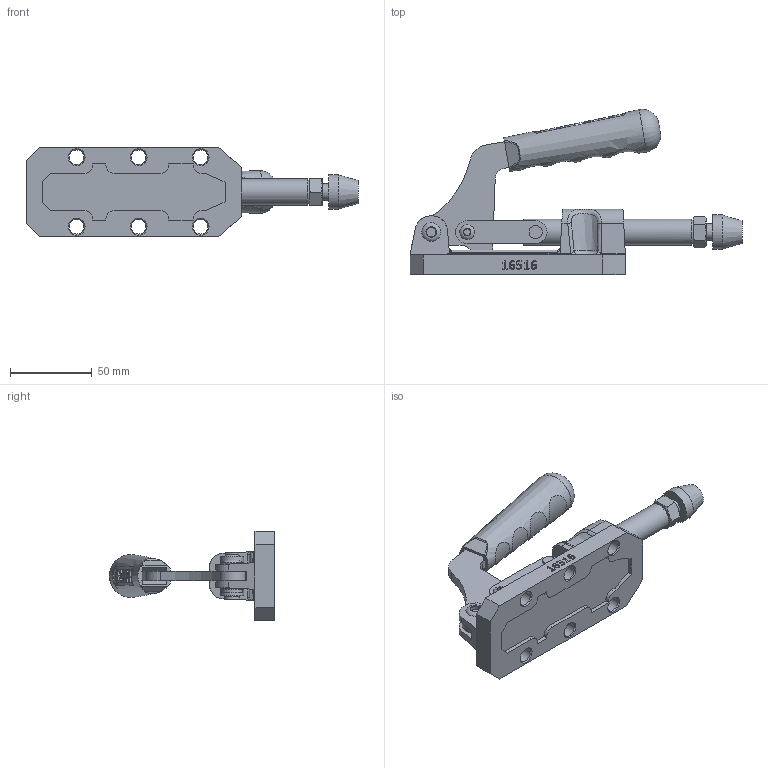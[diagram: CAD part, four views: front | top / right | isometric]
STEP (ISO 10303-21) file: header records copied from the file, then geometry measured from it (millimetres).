
FILE_DESCRIPTION (( 'STEP AP214' ), '1' );
FILE_NAME ('16516.STEP', '2023-09-08T09:19:22', ( '' ), ( '' ), 'SwSTEP 2.0', 'SolidWorks 2023', '' );
FILE_SCHEMA (( 'AUTOMOTIVE_DESIGN' ));
Length unit declared in the file: millimetre
Products named in the file (1): 16516
Bounding box: 203.5 x 101.23 x 55 mm (x, y, z)
Volume: 190478.1 mm3; surface area: 67581.4 mm2
Topology: 13 solids, 13 shells, 657 faces, 1719 edges, 1118 vertices
Faces by surface type: plane 346, bspline 144, cylinder 115, cone 33, torus 18, sphere 1
Full cylindrical faces by diameter (mm): 4 x1, 5.8 x2, 6 x7, 7.8 x1, 8 x5, 8.5 x1, 8.75 x1, 9 x6, 9.2 x1, 10 x3, 12.5 x1, 14 x2, 16 x2, 21 x1
Entity records: 36704 total; most frequent: CARTESIAN_POINT 14481, ORIENTED_EDGE 3260, DIRECTION 2571, EDGE_CURVE 1630, VERTEX_POINT 1102, VECTOR 993, LINE 993, EDGE_LOOP 798
